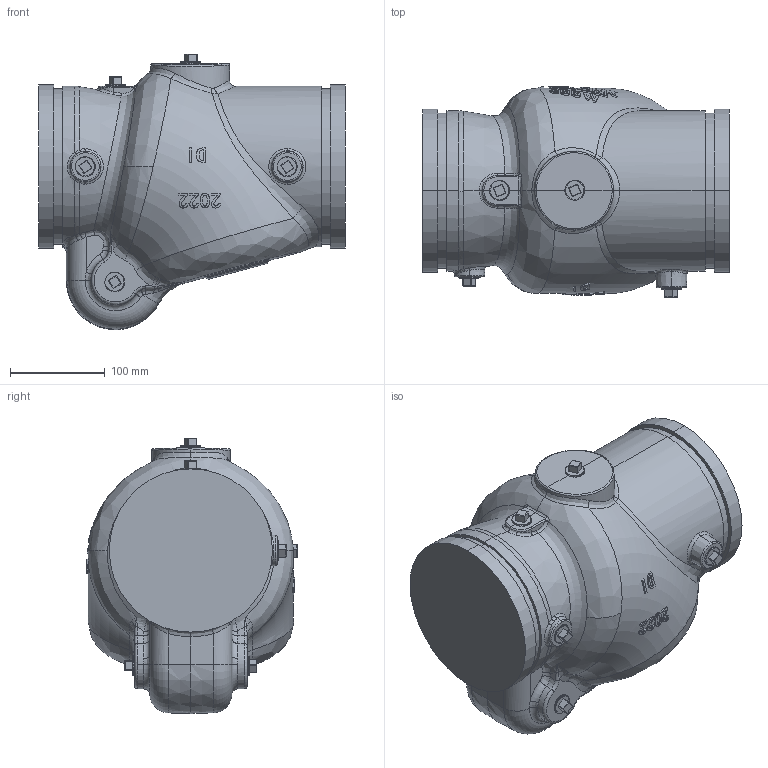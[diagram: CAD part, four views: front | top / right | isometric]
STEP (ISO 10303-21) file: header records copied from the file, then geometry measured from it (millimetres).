
FILE_DESCRIPTION (( 'STEP AP203' ), '1' );
FILE_NAME ('H84X 168 93L.STEP', '2022-06-09T00:33:40', ( 'MicroSoft' ), ( 'MicroSoft' ), 'SwSTEP 2.0', 'SolidWorks 2018', '' );
FILE_SCHEMA (( 'CONFIG_CONTROL_DESIGN' ));
Length unit declared in the file: millimetre
Products named in the file (3): H84X-D168-STEP; H84X 168 93L; A291S 15
Assembly tree (7 placements, depth 2):
  H84X 168 93L
    H84X-D168-STEP
    A291S 15  x6
Bounding box: 323.5 x 222.41 x 290.92 mm (x, y, z)
Volume: 10225631.4 mm3; surface area: 303628 mm2
Topology: 7 solids, 9 shells, 601 faces, 1453 edges, 882 vertices
Faces by surface type: plane 175, bspline 172, cylinder 158, torus 48, sphere 28, cone 20
Entity records: 37374 total; most frequent: CARTESIAN_POINT 28427, ORIENTED_EDGE 2138, DIRECTION 1094, EDGE_CURVE 1069, VERTEX_POINT 662, B_SPLINE_CURVE_WITH_KNOTS 631, EDGE_LOOP 477, ADVANCED_FACE 446
